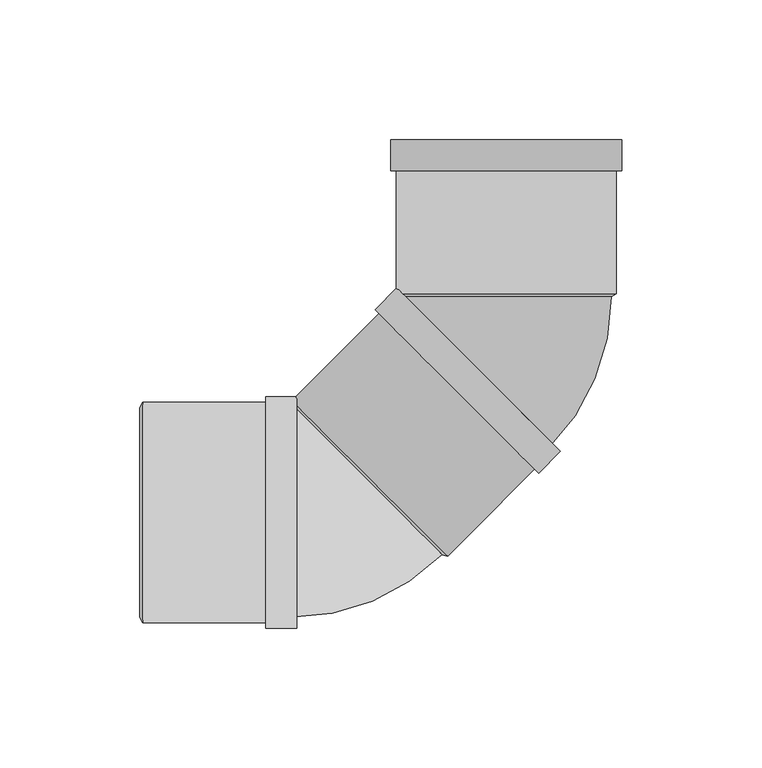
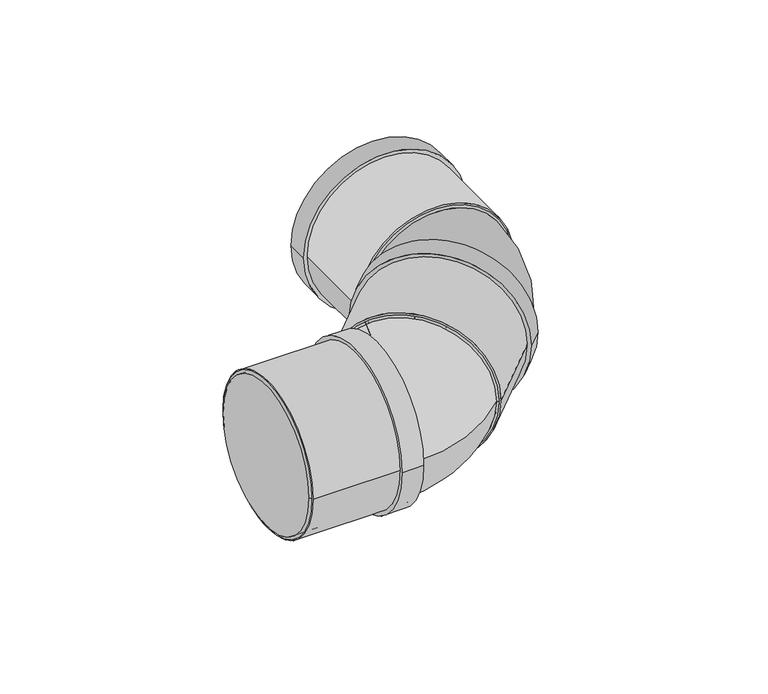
"""IFC4 building model written with IfcOpenShell, lengths in millimetres: pipe fitting geometry, Superdrain HT Bend Composite 2x45 : Superdrain HT Bend Composite 2x45."""

from ifc_helpers import new_model, si_unit, point, frame, origin, origin_2d, place, context, project, spatial, polyline, circle_curve, ellipse_curve, trimmed, segment, composite_curve, outline, extrude, source, transform, mapped, element, save
from ifc_brep_helpers import plane_surface, revolved_surface, advanced_brep


def pipe_fitting_f4127a96(model_context):
    return source(origin(), model_context, "Body", "SolidModel", [
        advanced_brep(
        [(37.5, 77.1526045, 0.0), (-37.5, 77.1526045, 0.0), (15.0613744, 22.9809704, 0.0), (-37.9716341, 76.013979, 0.0)],
        [
            (0, 1, circle_curve(frame((0.0, 77.1526045, 0.0), z_axis=(0.0, 1.0, 0.0), x_axis=(-1.0, 0.0, 0.0)), 37.5)),
            (1, 0, circle_curve(frame((0.0, 77.1526045, 0.0), z_axis=(0.0, 1.0, 0.0), x_axis=(-1.0, 0.0, 0.0)), 37.5)),
            (2, 3, circle_curve(frame((-11.4551299, 49.4974747, 0.0), z_axis=(-0.7071067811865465, -0.7071067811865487, 0.0), x_axis=(-0.7071067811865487, 0.7071067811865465, 0.0)), 37.5)),
            (3, 2, circle_curve(frame((-11.4551299, 49.4974747, 0.0), z_axis=(-0.7071067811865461, -0.707106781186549, 0.0), x_axis=(-0.707106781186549, 0.7071067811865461, 0.0)), 37.5)),
            (3, 1, circle_curve(frame((-39.1102597, 77.1526045, 0.0), z_axis=(0.0, 0.0, 1.0), x_axis=(0.707106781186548, 0.7071067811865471, 0.0)), 1.6102597)),
            (0, 2, circle_curve(frame((-39.1102597, 77.1526045, 0.0), z_axis=(0.0, 0.0, -1.0), x_axis=(0.707106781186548, 0.7071067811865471, 0.0)), 76.6102597)),
        ],
        [
            plane_surface(frame((0.0, 77.1526045, 0.0), z_axis=(0.0, 1.0, 0.0), x_axis=(0.0, 0.0, -1.0))),
            plane_surface(frame((-11.4551299, 49.4974747, 0.0), z_axis=(-0.7071067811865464, -0.7071067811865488, 0.0), x_axis=(0.0, 0.0, -1.0))),
            revolved_surface(trimmed(ellipse_curve(frame((-11.4551299, 104.8077344, 0.0), z_axis=(0.707106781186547, -0.7071067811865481, 0.0), x_axis=(-0.7071067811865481, -0.707106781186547, 0.0)), 37.5, 37.5), [point((-37.9716341, 78.2912301, 0.0))], [point((15.0613744, 131.3242387, 0.0))], True, "CARTESIAN"), (-39.1102597, 77.1526045, 0.0), (0.0, 0.0, 1.0)),
            revolved_surface(trimmed(ellipse_curve(frame((-11.4551299, 104.8077344, 0.0), z_axis=(0.707106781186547, -0.7071067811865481, 0.0), x_axis=(-0.7071067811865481, -0.707106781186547, 0.0)), 37.5, 37.5), [point((15.0613744, 131.3242387, 0.0))], [point((-37.9716341, 78.2912301, 0.0))], True, "CARTESIAN"), (-39.1102597, 77.1526045, 0.0), (0.0, 0.0, 1.0)),
        ],
        [
            (0, [[1, 2]]),
            (1, [[3, 4]]),
            (2, [[-4, 5, -1, 6]]),
            (3, [[-3, -6, -2, -5]]),
        ],
    ),
        extrude(outline(composite_curve([segment(trimmed(circle_curve(origin_2d(), 39.375), [point((0.0, 39.375))], [point((0.0, -39.375))], False, "CARTESIAN"), True, "CONTINUOUS"), segment(trimmed(circle_curve(origin_2d(), 39.375), [point((0.0, -39.375))], [point((0.0, 39.375))], False, "CARTESIAN"), True, "CONTINUOUS")], self_intersect=False), holes=[composite_curve([segment(trimmed(circle_curve(origin_2d(), 37.5), [point((0.0, 37.5))], [point((0.0, -37.5))], True, "CARTESIAN"), True, "CONTINUOUS"), segment(trimmed(circle_curve(origin_2d(), 37.5), [point((0.0, -37.5))], [point((0.0, 37.5))], True, "CARTESIAN"), True, "CONTINUOUS")], self_intersect=False)]), frame((0.0, 78.1526045, 0.0), z_axis=(0.0, 1.0, 0.0), x_axis=(0.0, 0.0, 1.0)), (0.0, 0.0, 1.0), 55.0),
        extrude(outline(composite_curve([segment(trimmed(circle_curve(origin_2d(), 41.34375), [point((0.0, -41.34375))], [point((0.0, 41.34375))], False, "CARTESIAN"), True, "CONTINUOUS"), segment(trimmed(circle_curve(origin_2d(), 41.34375), [point((0.0, 41.34375))], [point((0.0, -41.34375))], False, "CARTESIAN"), True, "CONTINUOUS")], self_intersect=False), holes=[composite_curve([segment(trimmed(circle_curve(origin_2d(), 37.5), [point((0.0, -37.5))], [point((0.0, 37.5))], True, "CARTESIAN"), True, "CONTINUOUS"), segment(trimmed(circle_curve(origin_2d(), 37.5), [point((0.0, 37.5))], [point((0.0, -37.5))], True, "CARTESIAN"), True, "CONTINUOUS")], self_intersect=False)]), frame((0.0, 122.1526045, 0.0), z_axis=(0.0, 1.0, 0.0), x_axis=(0.0, 0.0, 1.0)), (0.0, 0.0, 1.0), 11.0),
        advanced_brep(
        [(39.375, 78.1526045, 0.0), (-39.375, 78.1526045, 0.0), (37.5, 77.1526045, 0.0), (-37.5, 77.1526045, 0.0)],
        [
            (0, 1, circle_curve(frame((0.0, 78.1526045, 0.0), z_axis=(0.0, 1.0, 0.0), x_axis=(1.0, 0.0, 0.0)), 39.375)),
            (1, 0, circle_curve(frame((0.0, 78.1526045, 0.0), z_axis=(0.0, 1.0, 0.0), x_axis=(-1.0, 0.0, 0.0)), 39.375)),
            (2, 3, circle_curve(frame((0.0, 77.1526045, 0.0), z_axis=(0.0, -1.0, 0.0), x_axis=(-1.0, 0.0, 0.0)), 37.5)),
            (3, 2, circle_curve(frame((0.0, 77.1526045, 0.0), z_axis=(0.0, -1.0, 0.0), x_axis=(1.0, 0.0, 0.0)), 37.5)),
            (3, 1),
            (0, 2),
        ],
        [
            plane_surface(frame((0.0, 78.1526045, 0.0), z_axis=(0.0, 1.0, 0.0), x_axis=(0.0, 0.0, -1.0))),
            plane_surface(frame((0.0, 77.1526045, 0.0), z_axis=(0.0, -1.0, 0.0), x_axis=(0.0, 0.0, -1.0))),
            revolved_surface(polyline([(-37.5, 77.1526045, 0.0), (-39.375, 78.1526045, 0.0)]), (0.0, 57.1526045, 0.0), (0.0, 1.0, 0.0)),
            revolved_surface(polyline([(37.5, 77.1526045, 0.0), (39.375, 78.1526045, 0.0)]), (0.0, 57.1526045, 0.0), (0.0, 1.0, 0.0)),
        ],
        [
            (0, [[1, 2]]),
            (1, [[3, 4]]),
            (2, [[-4, 5, -1, 6]]),
            (3, [[-3, -6, -2, -5]]),
        ],
    ),
        extrude(outline(composite_curve([segment(trimmed(circle_curve(origin_2d(), 37.5), [point((0.0, -37.5))], [point((0.0, 37.5))], False, "CARTESIAN"), True, "CONTINUOUS"), segment(trimmed(circle_curve(origin_2d(), 37.5), [point((0.0, 37.5))], [point((0.0, -37.5))], False, "CARTESIAN"), True, "CONTINUOUS")], self_intersect=False)), frame((-48.7903679, 12.1622366, 0.0), z_axis=(0.707106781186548, 0.7071067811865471, 0.0), x_axis=(0.0, 0.0, -1.0)), (0.0, 0.0, 1.0), 52.8),
        extrude(outline(composite_curve([segment(trimmed(circle_curve(origin_2d(), 39.375), [point((39.375, 0.0))], [point((-39.375, 0.0))], False, "CARTESIAN"), True, "CONTINUOUS"), segment(trimmed(circle_curve(origin_2d(), 39.375), [point((-39.375, 0.0))], [point((39.375, 0.0))], False, "CARTESIAN"), True, "CONTINUOUS")], self_intersect=False), holes=[composite_curve([segment(trimmed(circle_curve(origin_2d(), 37.5), [point((37.5, 0.0))], [point((-37.5, 0.0))], True, "CARTESIAN"), True, "CONTINUOUS"), segment(trimmed(circle_curve(origin_2d(), 37.5), [point((-37.5, 0.0))], [point((37.5, 0.0))], True, "CARTESIAN"), True, "CONTINUOUS")], self_intersect=False)]), frame((-129.9526045, 0.0, 0.0), z_axis=(1.0, 0.0, 0.0), x_axis=(0.0, 1.0, 0.0)), (0.0, 0.0, 1.0), 55.0),
        extrude(outline(composite_curve([segment(trimmed(circle_curve(origin_2d(), 41.34375), [point((41.34375, 0.0))], [point((-41.34375, 0.0))], False, "CARTESIAN"), True, "CONTINUOUS"), segment(trimmed(circle_curve(origin_2d(), 41.34375), [point((-41.34375, 0.0))], [point((41.34375, 0.0))], False, "CARTESIAN"), True, "CONTINUOUS")], self_intersect=False), holes=[composite_curve([segment(trimmed(circle_curve(origin_2d(), 37.5), [point((37.5, 0.0))], [point((-37.5, 0.0))], True, "CARTESIAN"), True, "CONTINUOUS"), segment(trimmed(circle_curve(origin_2d(), 37.5), [point((-37.5, 0.0))], [point((37.5, 0.0))], True, "CARTESIAN"), True, "CONTINUOUS")], self_intersect=False)]), frame((-85.9526045, 0.0, 0.0), z_axis=(1.0, 0.0, 0.0), x_axis=(0.0, 1.0, 0.0)), (0.0, 0.0, 1.0), 11.0),
        advanced_brep(
        [(-130.9526045, 37.5, 0.0), (-130.9526045, -37.5, 0.0), (-129.9526045, 39.375, 0.0), (-129.9526045, -39.375, 0.0)],
        [
            (0, 1, circle_curve(frame((-130.9526045, 0.0, 0.0), z_axis=(-1.0, 0.0, 0.0), x_axis=(0.0, 1.0, 0.0)), 37.5)),
            (1, 0, circle_curve(frame((-130.9526045, 0.0, 0.0), z_axis=(-1.0, 0.0, 0.0), x_axis=(0.0, -1.0, 0.0)), 37.5)),
            (2, 3, circle_curve(frame((-129.9526045, 0.0, 0.0), z_axis=(1.0, 0.0, 0.0), x_axis=(0.0, -1.0, 0.0)), 39.375)),
            (3, 2, circle_curve(frame((-129.9526045, 0.0, 0.0), z_axis=(1.0, 0.0, 0.0), x_axis=(0.0, 1.0, 0.0)), 39.375)),
            (3, 1),
            (0, 2),
        ],
        [
            plane_surface(frame((-130.9526045, 0.0, 0.0), z_axis=(-1.0, 0.0, 0.0), x_axis=(0.0, 0.0, -1.0))),
            plane_surface(frame((-129.9526045, 0.0, 0.0), z_axis=(1.0, 0.0, 0.0), x_axis=(0.0, 0.0, -1.0))),
            revolved_surface(polyline([(-130.9526045, 37.5, 0.0), (-129.9526045, 39.375, 0.0)]), (-150.9526045, 0.0, 0.0), (1.0, 0.0, 0.0)),
            revolved_surface(polyline([(-130.9526045, -37.5, 0.0), (-129.9526045, -39.375, 0.0)]), (-150.9526045, 0.0, 0.0), (1.0, 0.0, 0.0)),
        ],
        [
            (0, [[1, 2]]),
            (1, [[3, 4]]),
            (2, [[-4, 5, -1, 6]]),
            (3, [[-3, -6, -2, -5]]),
        ],
    ),
        advanced_brep(
        [(-22.9809704, -15.0613744, 0.0), (-76.013979, 37.9716341, 0.0), (-77.1526045, -37.5, 0.0), (-77.1526045, 37.5, 0.0)],
        [
            (0, 1, circle_curve(frame((-49.4974747, 11.4551299, 0.0), z_axis=(0.7071067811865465, 0.7071067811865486, 0.0), x_axis=(-0.7071067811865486, 0.7071067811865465, 0.0)), 37.5)),
            (1, 0, circle_curve(frame((-49.4974747, 11.4551299, 0.0), z_axis=(0.707106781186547, 0.707106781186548, 0.0), x_axis=(-0.707106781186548, 0.707106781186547, 0.0)), 37.5)),
            (2, 3, circle_curve(frame((-77.1526045, 0.0, 0.0), z_axis=(-1.0, 0.0, 0.0), x_axis=(0.0, 1.0, 0.0)), 37.5)),
            (3, 2, circle_curve(frame((-77.1526045, 0.0, 0.0), z_axis=(-1.0, 0.0, 0.0), x_axis=(0.0, 1.0, 0.0)), 37.5)),
            (3, 1, circle_curve(frame((-77.1526045, 39.1102597, 0.0), z_axis=(0.0, 0.0, 1.0), x_axis=(1.0, 0.0, 0.0)), 1.6102597)),
            (0, 2, circle_curve(frame((-77.1526045, 39.1102597, 0.0), z_axis=(0.0, 0.0, -1.0), x_axis=(1.0, 0.0, 0.0)), 76.6102597)),
        ],
        [
            plane_surface(frame((-49.4974747, 11.4551299, 0.0), z_axis=(0.7071067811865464, 0.7071067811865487, 0.0), x_axis=(0.0, 0.0, -1.0))),
            plane_surface(frame((-77.1526045, 0.0, 0.0), z_axis=(-1.0, 0.0, 0.0), x_axis=(0.0, 0.0, -1.0))),
            revolved_surface(trimmed(ellipse_curve(frame((-38.0423448, 39.1102597, 0.0), z_axis=(0.0, -1.0, 0.0), x_axis=(-1.0, 0.0, 0.0)), 37.5, 37.5), [point((-75.5423448, 39.1102597, 0.0))], [point((-0.5423448, 39.1102597, 0.0))], True, "CARTESIAN"), (-77.1526045, 39.1102597, 0.0), (0.0, 0.0, 1.0)),
            revolved_surface(trimmed(ellipse_curve(frame((-38.0423448, 39.1102597, 0.0), z_axis=(0.0, -1.0, 0.0), x_axis=(-1.0, 0.0, 0.0)), 37.5, 37.5), [point((-0.5423448, 39.1102597, 0.0))], [point((-75.5423448, 39.1102597, 0.0))], True, "CARTESIAN"), (-77.1526045, 39.1102597, 0.0), (0.0, 0.0, 1.0)),
        ],
        [
            (0, [[1, 2]]),
            (1, [[3, 4]]),
            (2, [[-4, 5, -1, 6]]),
            (3, [[-3, -6, -2, -5]]),
        ],
    ),
        extrude(outline(composite_curve([segment(trimmed(circle_curve(origin_2d(), 39.375), [point((0.0, 39.375))], [point((0.0, -39.375))], False, "CARTESIAN"), True, "CONTINUOUS"), segment(trimmed(circle_curve(origin_2d(), 39.375), [point((0.0, -39.375))], [point((0.0, 39.375))], False, "CARTESIAN"), True, "CONTINUOUS")], self_intersect=False), holes=[composite_curve([segment(trimmed(circle_curve(origin_2d(), 37.5), [point((0.0, 37.5))], [point((0.0, -37.5))], True, "CARTESIAN"), True, "CONTINUOUS"), segment(trimmed(circle_curve(origin_2d(), 37.5), [point((0.0, -37.5))], [point((0.0, 37.5))], True, "CARTESIAN"), True, "CONTINUOUS")], self_intersect=False)]), frame((-48.7903679, 12.1622366, 0.0), z_axis=(0.7071067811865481, 0.707106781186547, 0.0), x_axis=(0.0, 0.0, 1.0)), (0.0, 0.0, 1.0), 55.0),
        extrude(outline(composite_curve([segment(trimmed(circle_curve(origin_2d(), 41.34375), [point((0.0, -41.34375))], [point((0.0, 41.34375))], False, "CARTESIAN"), True, "CONTINUOUS"), segment(trimmed(circle_curve(origin_2d(), 41.34375), [point((0.0, 41.34375))], [point((0.0, -41.34375))], False, "CARTESIAN"), True, "CONTINUOUS")], self_intersect=False), holes=[composite_curve([segment(trimmed(circle_curve(origin_2d(), 37.5), [point((0.0, -37.5))], [point((0.0, 37.5))], True, "CARTESIAN"), True, "CONTINUOUS"), segment(trimmed(circle_curve(origin_2d(), 37.5), [point((0.0, 37.5))], [point((0.0, -37.5))], True, "CARTESIAN"), True, "CONTINUOUS")], self_intersect=False)]), frame((-17.6776695, 43.274935, 0.0), z_axis=(0.707106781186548, 0.7071067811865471, 0.0), x_axis=(0.0, 0.0, 1.0)), (0.0, 0.0, 1.0), 11.0),
        advanced_brep(
        [(-20.9480384, -15.6800929, 0.0), (-76.6326974, 40.0045661, 0.0), (-22.9809704, -15.0613744, 0.0), (-76.013979, 37.9716341, 0.0)],
        [
            (0, 1, circle_curve(frame((-48.7903679, 12.1622366, 0.0), z_axis=(0.7071067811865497, 0.7071067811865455, 0.0), x_axis=(0.7071067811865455, -0.7071067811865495, 0.0)), 39.375)),
            (1, 0, circle_curve(frame((-48.7903679, 12.1622366, 0.0), z_axis=(0.7071067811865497, 0.7071067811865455, 0.0), x_axis=(-0.7071067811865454, 0.7071067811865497, 0.0)), 39.375)),
            (2, 3, circle_curve(frame((-49.4974747, 11.4551299, 0.0), z_axis=(-0.7071067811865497, -0.7071067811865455, 0.0), x_axis=(-0.7071067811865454, 0.7071067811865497, 0.0)), 37.5)),
            (3, 2, circle_curve(frame((-49.4974747, 11.4551299, 0.0), z_axis=(-0.7071067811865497, -0.7071067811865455, 0.0), x_axis=(0.7071067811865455, -0.7071067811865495, 0.0)), 37.5)),
            (3, 1),
            (0, 2),
        ],
        [
            plane_surface(frame((-48.7903679, 12.1622366, 0.0), z_axis=(0.7071067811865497, 0.7071067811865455, 0.0), x_axis=(0.0, 0.0, -1.0))),
            plane_surface(frame((-49.4974747, 11.4551299, 0.0), z_axis=(-0.7071067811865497, -0.7071067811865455, 0.0), x_axis=(0.0, 0.0, -1.0))),
            revolved_surface(polyline([(-76.01397895, 37.97163404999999, 0.0), (-76.63269740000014, 40.00456610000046, 0.0)]), (-63.6396103, -2.6870058, 0.0), (0.7071067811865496, 0.7071067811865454, 0.0)),
            revolved_surface(polyline([(-22.98097045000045, -15.061374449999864, 0.0), (-20.9480384, -15.6800929, 0.0)]), (-63.6396103, -2.6870058, 0.0), (0.7071067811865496, 0.7071067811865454, 0.0)),
        ],
        [
            (0, [[1, 2]]),
            (1, [[3, 4]]),
            (2, [[-4, 5, -1, 6]]),
            (3, [[-3, -6, -2, -5]]),
        ],
    ),
        extrude(outline(composite_curve([segment(trimmed(circle_curve(origin_2d(), 37.5), [point((-37.5, 0.0))], [point((37.5, 0.0))], False, "CARTESIAN"), True, "CONTINUOUS"), segment(trimmed(circle_curve(origin_2d(), 37.5), [point((37.5, 0.0))], [point((-37.5, 0.0))], False, "CARTESIAN"), True, "CONTINUOUS")], self_intersect=False)), frame((-129.9526045, 0.0, 0.0), z_axis=(1.0, 0.0, 0.0), x_axis=(0.0, 1.0, 0.0)), (0.0, 0.0, 1.0), 52.8),
    ])


if __name__ == "__main__":
    model = new_model("IFC4")
    model_context = context("Model", 3, world=origin())
    ifc_project = project(units=[si_unit("LENGTHUNIT", "METRE", prefix="MILLI")], contexts=[model_context])
    site = spatial("IfcSite", under=ifc_project)
    building = spatial("IfcBuilding", under=site)
    placement = place(None, origin())
    pipe_fitting_shape = pipe_fitting_f4127a96(model_context)
    element("IfcPipeFitting", 1, ObjectType="Superdrain HT Bend Composite 2x45 : Superdrain HT Bend Composite 2x45", at=placement, inside=building, context=model_context, shape_type="MappedRepresentation", body=[
        mapped(pipe_fitting_shape, transform((0.0, 0.0, 0.0), x_axis=(1.0, 0.0, 0.0), y_axis=(0.0, 1.0, 0.0), z_axis=(0.0, 0.0, 1.0))),
    ])
    save(model, "model.ifc")
